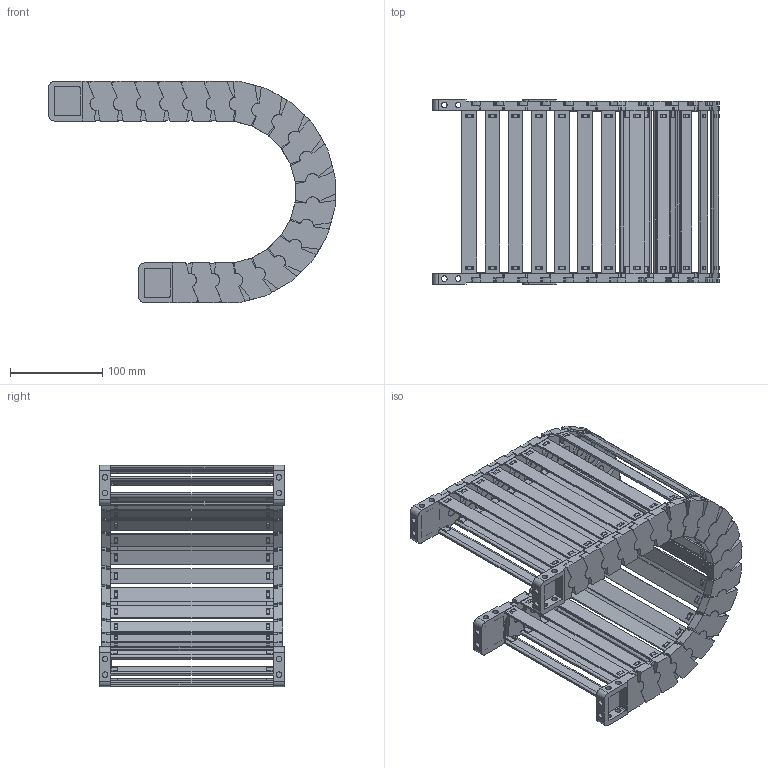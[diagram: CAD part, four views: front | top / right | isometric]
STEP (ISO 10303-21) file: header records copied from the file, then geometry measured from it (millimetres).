
FILE_DESCRIPTION((''),'2;1');
FILE_NAME('JY-35X175-R100_ASM','2026-05-04T14:27:43',('admin'),(''),'CREO PARAMETRIC BY PTC INC, 2021023','CREO PARAMETRIC BY PTC INC, 2021023','');
FILE_SCHEMA(('CONFIG_CONTROL_DESIGN'));
Length unit declared in the file: millimetre
Products named in the file (11): 35XL-L; 25-35XL-YP; 35XL-R; ASM0001_ASM; 35-LTT-A-L; 35-LTT-A-R; 35XL-LTT-A_ASM; 35-LTT-B-L; 35-LTT-B-R; 35XL-LTT-B_ASM; JY-35X175-R100_ASM
Assembly tree (33 placements, depth 3):
  JY-35X175-R100_ASM
    ASM0001_ASM  x19
      35XL-L
      25-35XL-YP
      35XL-R
    35XL-LTT-A_ASM
      35-LTT-A-L
      25-35XL-YP  x2
      35-LTT-A-R
    35XL-LTT-B_ASM
      35-LTT-B-L
      25-35XL-YP  x2
      35-LTT-B-R
Bounding box: 310.13 x 200.1 x 239.89 mm (x, y, z)
Volume: 819167.5 mm3; surface area: 523105.5 mm2
Topology: 84 solids, 84 shells, 4366 faces, 12770 edges, 8536 vertices
Faces by surface type: plane 3318, cylinder 1044, bspline 4
Entity records: 17160 total; most frequent: CARTESIAN_POINT 3192, ORIENTED_EDGE 2876, DIRECTION 2864, EDGE_CURVE 1438, VECTOR 1056, LINE 1056, VERTEX_POINT 964, AXIS2_PLACEMENT_3D 904
